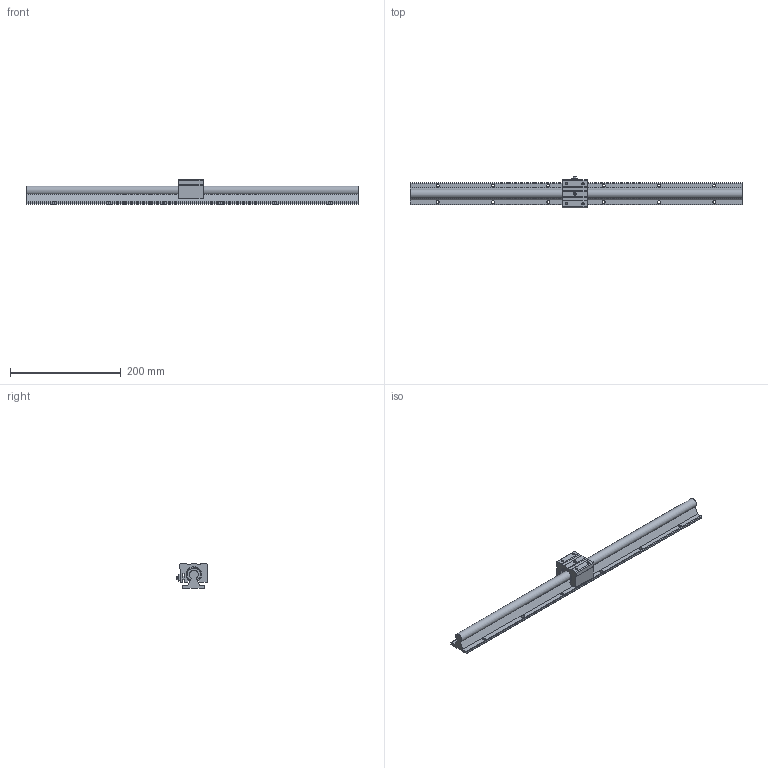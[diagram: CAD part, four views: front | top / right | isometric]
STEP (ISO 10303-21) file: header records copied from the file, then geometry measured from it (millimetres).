
FILE_DESCRIPTION((''),'2;1');
FILE_NAME('D:\製品 (図面)\カタログ用3D\リニアガイド関連\STEP形式\GTA(W)\GTAW16.stp','2010-06-08T09:17:46',('Tsuchiya'),(''),'Autodesk Inventor 10','Autodesk Inventor 10','');
FILE_SCHEMA(('AUTOMOTIVE_DESIGN { 1 0 10303 214 1 1 1 1 }'));
Length unit declared in the file: millimetre
Products named in the file (3): GTAW16; GTAW161; GTAW162
Assembly tree (2 placements, depth 2):
  GTAW16
    GTAW161
    GTAW162
Bounding box: 600 x 56.5 x 45 mm (x, y, z)
Volume: 405174.9 mm3; surface area: 101224.8 mm2
Topology: 2 solids, 2 shells, 203 faces, 538 edges, 350 vertices
Faces by surface type: plane 116, cylinder 48, cone 21, bspline 10, torus 8
Full cylindrical faces by diameter (mm): 5.5 x12, 6 x2, 8.5 x6, 8.9 x6
Entity records: 5943 total; most frequent: CARTESIAN_POINT 1318, ORIENTED_EDGE 918, DIRECTION 906, EDGE_CURVE 459, AXIS2_PLACEMENT_3D 325, VERTEX_POINT 321, EDGE_LOOP 294, VECTOR 256
